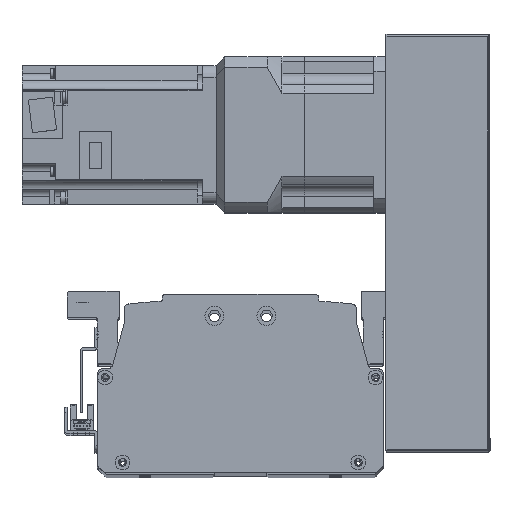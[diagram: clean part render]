
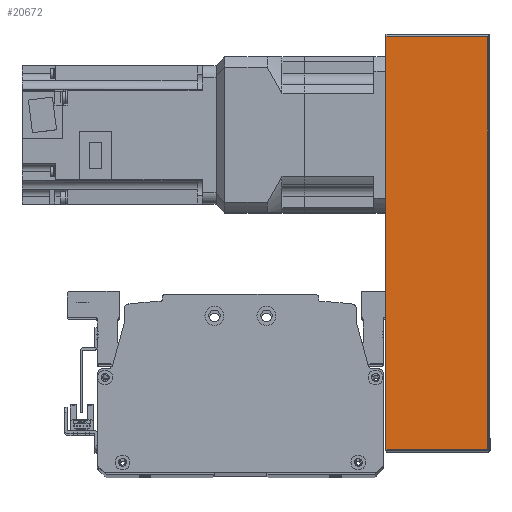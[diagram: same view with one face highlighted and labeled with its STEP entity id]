
A CAD part, top view. The second image highlights one B-rep face of the part: STEP entity #20672.
In plain terms, the highlighted planar face has unit normal (0, 0, 1) as drawn and (0, -1, 0) by its records, which use the part's own axes.
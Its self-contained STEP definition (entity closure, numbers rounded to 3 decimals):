
#558=PLANE('',#22524);
#1676=LINE('',#32821,#3336);
#1702=LINE('',#32917,#3362);
#1703=LINE('',#32925,#3363);
#1710=LINE('',#32950,#3370);
#3336=VECTOR('',#26687,10.);
#3362=VECTOR('',#26805,10.);
#3363=VECTOR('',#26816,10.);
#3370=VECTOR('',#26851,10.);
#5355=FACE_OUTER_BOUND('',#6783,.T.);
#6783=EDGE_LOOP('',(#16244,#16245,#16246,#16247));
#9633=VERTEX_POINT('',#32818);
#9634=VERTEX_POINT('',#32820);
#9658=VERTEX_POINT('',#32913);
#9659=VERTEX_POINT('',#32919);
#11984=EDGE_CURVE('',#9634,#9633,#1676,.T.);
#12034=EDGE_CURVE('',#9633,#9658,#1702,.T.);
#12038=EDGE_CURVE('',#9659,#9634,#1703,.T.);
#12051=EDGE_CURVE('',#9658,#9659,#1710,.T.);
#16244=ORIENTED_EDGE('',*,*,#12034,.T.);
#16245=ORIENTED_EDGE('',*,*,#12051,.T.);
#16246=ORIENTED_EDGE('',*,*,#12038,.T.);
#16247=ORIENTED_EDGE('',*,*,#11984,.T.);
#20672=ADVANCED_FACE('',(#5355),#558,.F.);
#22524=AXIS2_PLACEMENT_3D('',#32956,#26861,#26862);
#26687=DIRECTION('',(1.,0.,0.));
#26805=DIRECTION('',(0.,0.,1.));
#26816=DIRECTION('',(0.,0.,-1.));
#26851=DIRECTION('',(-1.,0.,0.));
#26861=DIRECTION('center_axis',(0.,1.,0.));
#26862=DIRECTION('ref_axis',(1.,0.,0.));
#32818=CARTESIAN_POINT('',(119.5,-51.,-30.));
#32820=CARTESIAN_POINT('',(-119.5,-51.,-30.));
#32821=CARTESIAN_POINT('',(120.5,-51.,-30.));
#32913=CARTESIAN_POINT('',(119.5,-51.,29.));
#32917=CARTESIAN_POINT('',(119.5,-51.,0.));
#32919=CARTESIAN_POINT('',(-119.5,-51.,29.));
#32925=CARTESIAN_POINT('',(-119.5,-51.,0.));
#32950=CARTESIAN_POINT('',(-60.25,-51.,29.));
#32956=CARTESIAN_POINT('Origin',(-120.5,-51.,0.));
